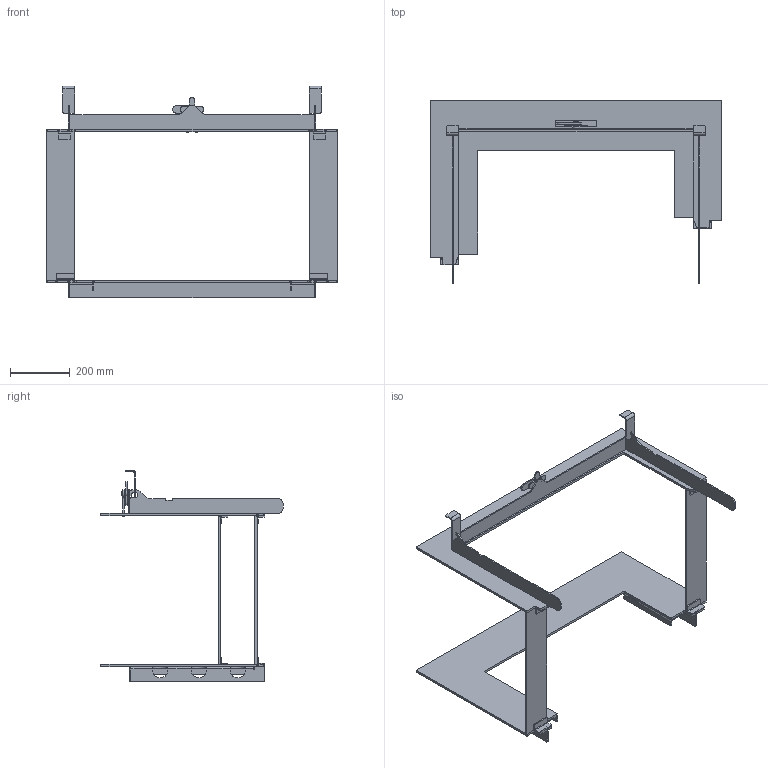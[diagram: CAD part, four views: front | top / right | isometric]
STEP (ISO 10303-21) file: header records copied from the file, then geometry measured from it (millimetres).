
FILE_DESCRIPTION(/* description */ (''),/* implementation_level */ '2;1');
FILE_NAME(/* name */ 'C:\ADSK_DM_WS\CAD_3D\03 Geraete\RAS 50x80x42\Zeichnungen\2023-00791.stp',/* time_stamp */ '2023-04-27T07:03:01+02:00',/* author */ ('CPI'),/* organization */ (''),/* preprocessor_version */ 'ST-DEVELOPER v18.1',/* originating_system */ 'Autodesk Inventor 2022',/* authorisation */ '');
FILE_SCHEMA (('AUTOMOTIVE_DESIGN { 1 0 10303 214 3 1 1 }'));
Length unit declared in the file: millimetre
Products named in the file (1): 2023-01121
Bounding box: 975 x 613.15 x 710 mm (x, y, z)
Volume: 5129260.8 mm3; surface area: 1532802.6 mm2
Topology: 4 solids, 4 shells, 518 faces, 1435 edges, 896 vertices
Faces by surface type: plane 283, cylinder 221, bspline 10, cone 4
Full cylindrical faces by diameter (mm): 10 x1, 10.21 x2, 16 x1, 20 x2, 25 x2
Entity records: 16956 total; most frequent: CARTESIAN_POINT 3100, DIRECTION 2880, ORIENTED_EDGE 2870, EDGE_CURVE 1435, AXIS2_PLACEMENT_3D 964, LINE 952, VECTOR 952, VERTEX_POINT 896
